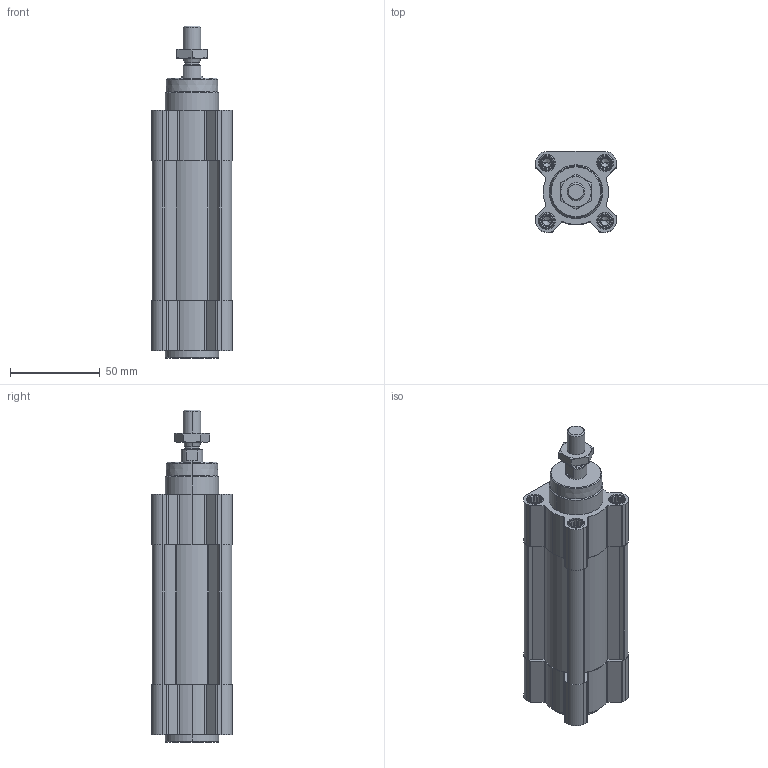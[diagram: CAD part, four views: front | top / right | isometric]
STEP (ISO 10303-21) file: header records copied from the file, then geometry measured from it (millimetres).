
FILE_DESCRIPTION (( 'STEP AP203' ), '1' );
FILE_NAME ('CPME32-40.STEP', '2025-01-16T12:47:53', ( '' ), ( '' ), 'SwSTEP 2.0', 'SolidWorks 2019', '' );
FILE_SCHEMA (( 'CONFIG_CONTROL_DESIGN' ));
Length unit declared in the file: millimetre
Products named in the file (1): CPME32-40
Bounding box: 45 x 45 x 185.1 mm (x, y, z)
Volume: 191135 mm3; surface area: 64046 mm2
Topology: 3 solids, 3 shells, 633 faces, 1637 edges, 1038 vertices
Faces by surface type: plane 327, cylinder 192, cone 106, torus 8
Entity records: 19692 total; most frequent: CARTESIAN_POINT 4284, ORIENTED_EDGE 3242, DIRECTION 3141, EDGE_CURVE 1621, AXIS2_PLACEMENT_3D 1109, VERTEX_POINT 1038, LINE 923, VECTOR 923
